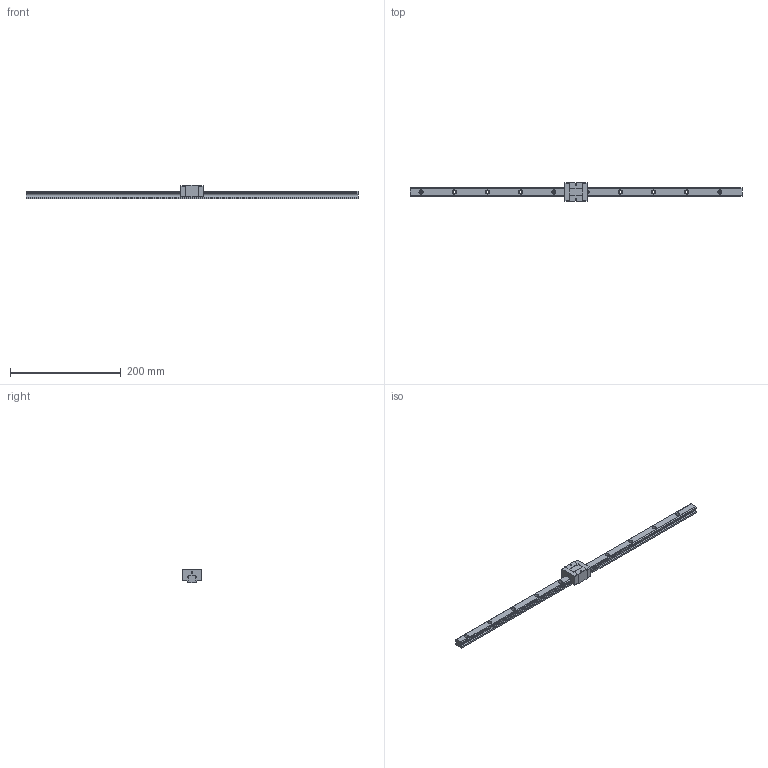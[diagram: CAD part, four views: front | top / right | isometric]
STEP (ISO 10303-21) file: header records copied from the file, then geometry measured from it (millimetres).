
FILE_DESCRIPTION (( 'STEP AP203' ), '1' );
FILE_NAME ('TRS15VS-XN.-§ï.STEP', '2023-08-31T07:16:14', ( '' ), ( '' ), 'SwSTEP 2.0', 'SolidWorks 2022', '' );
FILE_SCHEMA (( 'CONFIG_CONTROL_DESIGN' ));
Length unit declared in the file: millimetre
Products named in the file (1): TRS15VS-XN.-改
Bounding box: 600 x 34 x 24 mm (x, y, z)
Volume: 123421.5 mm3; surface area: 42461.4 mm2
Topology: 1 solids, 1 shells, 171 faces, 464 edges, 306 vertices
Faces by surface type: plane 87, cylinder 84
Entity records: 5549 total; most frequent: DIRECTION 978, CARTESIAN_POINT 942, ORIENTED_EDGE 928, EDGE_CURVE 464, AXIS2_PLACEMENT_3D 342, VERTEX_POINT 306, VECTOR 294, LINE 294
